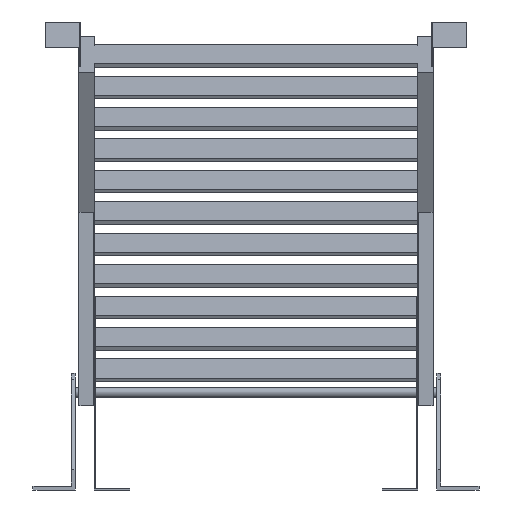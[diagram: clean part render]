
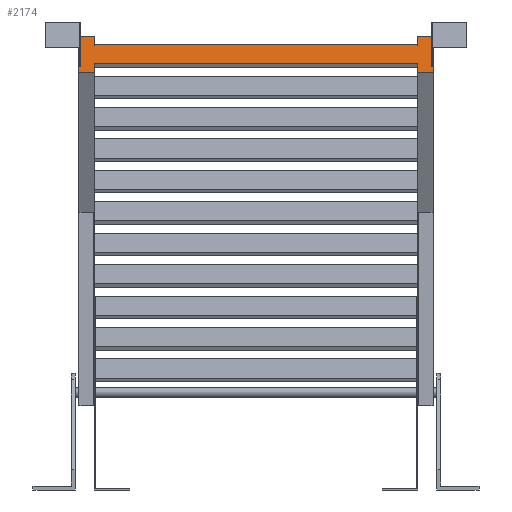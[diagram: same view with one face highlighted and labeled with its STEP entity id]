
A CAD part, front view. The second image highlights one B-rep face of the part: STEP entity #2174.
In plain terms, the highlighted planar face has unit normal (0, -0.985, 0.174).
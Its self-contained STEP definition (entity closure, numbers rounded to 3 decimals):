
#681=DIRECTION('',(1.,0.,0.));
#682=VECTOR('',#681,500.);
#683=CARTESIAN_POINT('',(-250.,-2660.988,659.349));
#684=LINE('',#683,#682);
#689=DIRECTION('',(0.,0.174,0.985));
#690=VECTOR('',#689,13.5);
#691=CARTESIAN_POINT('',(-250.,-2655.779,688.894));
#692=LINE('',#691,#690);
#693=DIRECTION('',(0.,-0.174,-0.985));
#694=VECTOR('',#693,13.5);
#695=CARTESIAN_POINT('',(250.,-2653.434,702.188));
#696=LINE('',#695,#694);
#697=DIRECTION('',(-1.,0.,0.));
#698=VECTOR('',#697,25.);
#699=CARTESIAN_POINT('',(275.,-2653.434,702.188));
#700=LINE('',#699,#698);
#701=DIRECTION('',(0.,0.174,0.985));
#702=VECTOR('',#701,57.);
#703=CARTESIAN_POINT('',(275.,-2663.332,646.054));
#704=LINE('',#703,#702);
#705=DIRECTION('',(1.,0.,0.));
#706=VECTOR('',#705,25.);
#707=CARTESIAN_POINT('',(250.,-2663.332,646.054));
#708=LINE('',#707,#706);
#709=DIRECTION('',(0.,-0.174,-0.985));
#710=VECTOR('',#709,13.5);
#711=CARTESIAN_POINT('',(250.,-2660.988,659.349));
#712=LINE('',#711,#710);
#713=DIRECTION('',(0.,0.174,0.985));
#714=VECTOR('',#713,13.5);
#715=CARTESIAN_POINT('',(-250.,-2663.332,646.054));
#716=LINE('',#715,#714);
#717=DIRECTION('',(1.,0.,0.));
#718=VECTOR('',#717,25.);
#719=CARTESIAN_POINT('',(-275.,-2663.332,646.054));
#720=LINE('',#719,#718);
#721=DIRECTION('',(0.,-0.174,-0.985));
#722=VECTOR('',#721,57.);
#723=CARTESIAN_POINT('',(-275.,-2653.434,702.188));
#724=LINE('',#723,#722);
#725=DIRECTION('',(-1.,0.,0.));
#726=VECTOR('',#725,25.);
#727=CARTESIAN_POINT('',(-250.,-2653.434,702.188));
#728=LINE('',#727,#726);
#729=DIRECTION('',(1.,0.,0.));
#730=VECTOR('',#729,2.);
#731=CARTESIAN_POINT('',(-273.,-2661.856,654.425));
#732=LINE('',#731,#730);
#733=DIRECTION('',(0.,0.174,0.985));
#734=VECTOR('',#733,40.);
#735=CARTESIAN_POINT('',(-271.,-2661.856,654.425));
#736=LINE('',#735,#734);
#737=DIRECTION('',(1.,0.,0.));
#738=VECTOR('',#737,2.);
#739=CARTESIAN_POINT('',(-273.,-2654.91,693.818));
#740=LINE('',#739,#738);
#741=DIRECTION('',(0.,0.174,0.985));
#742=VECTOR('',#741,40.);
#743=CARTESIAN_POINT('',(-273.,-2661.856,654.425));
#744=LINE('',#743,#742);
#745=DIRECTION('',(1.,0.,0.));
#746=VECTOR('',#745,2.);
#747=CARTESIAN_POINT('',(271.,-2661.856,654.425));
#748=LINE('',#747,#746);
#749=DIRECTION('',(0.,0.174,0.985));
#750=VECTOR('',#749,40.);
#751=CARTESIAN_POINT('',(273.,-2661.856,654.425));
#752=LINE('',#751,#750);
#753=DIRECTION('',(1.,0.,0.));
#754=VECTOR('',#753,2.);
#755=CARTESIAN_POINT('',(271.,-2654.91,693.818));
#756=LINE('',#755,#754);
#757=DIRECTION('',(0.,0.174,0.985));
#758=VECTOR('',#757,40.);
#759=CARTESIAN_POINT('',(271.,-2661.856,654.425));
#760=LINE('',#759,#758);
#765=DIRECTION('',(1.,0.,0.));
#766=VECTOR('',#765,500.);
#767=CARTESIAN_POINT('',(-250.,-2655.779,688.894));
#768=LINE('',#767,#766);
#993=CARTESIAN_POINT('',(-250.,-2653.434,702.188));
#994=CARTESIAN_POINT('',(-275.,-2653.434,702.188));
#995=VERTEX_POINT('',#993);
#996=VERTEX_POINT('',#994);
#997=CARTESIAN_POINT('',(-275.,-2663.332,646.054));
#998=CARTESIAN_POINT('',(-250.,-2663.332,646.054));
#999=VERTEX_POINT('',#997);
#1000=VERTEX_POINT('',#998);
#1001=CARTESIAN_POINT('',(275.,-2663.332,646.054));
#1002=CARTESIAN_POINT('',(275.,-2653.434,702.188));
#1003=VERTEX_POINT('',#1001);
#1004=VERTEX_POINT('',#1002);
#1005=CARTESIAN_POINT('',(250.,-2663.332,646.054));
#1006=VERTEX_POINT('',#1005);
#1007=CARTESIAN_POINT('',(250.,-2653.434,702.188));
#1008=VERTEX_POINT('',#1007);
#1169=CARTESIAN_POINT('',(-250.,-2660.988,659.349));
#1171=VERTEX_POINT('',#1169);
#1173=CARTESIAN_POINT('',(-250.,-2655.779,688.894));
#1175=VERTEX_POINT('',#1173);
#1177=CARTESIAN_POINT('',(250.,-2660.988,659.349));
#1179=VERTEX_POINT('',#1177);
#1181=CARTESIAN_POINT('',(250.,-2655.779,688.894));
#1183=VERTEX_POINT('',#1181);
#1233=CARTESIAN_POINT('',(-273.,-2661.856,654.425));
#1234=CARTESIAN_POINT('',(-271.,-2661.856,654.425));
#1235=VERTEX_POINT('',#1233);
#1236=VERTEX_POINT('',#1234);
#1237=CARTESIAN_POINT('',(-273.,-2654.91,693.818));
#1238=CARTESIAN_POINT('',(-271.,-2654.91,693.818));
#1239=VERTEX_POINT('',#1237);
#1240=VERTEX_POINT('',#1238);
#1257=CARTESIAN_POINT('',(271.,-2661.856,654.425));
#1258=CARTESIAN_POINT('',(273.,-2661.856,654.425));
#1259=VERTEX_POINT('',#1257);
#1260=VERTEX_POINT('',#1258);
#1261=CARTESIAN_POINT('',(271.,-2654.91,693.818));
#1262=CARTESIAN_POINT('',(273.,-2654.91,693.818));
#1263=VERTEX_POINT('',#1261);
#1264=VERTEX_POINT('',#1262);
#2130=CARTESIAN_POINT('',(0.,-2693.505,474.938));
#2131=DIRECTION('',(0.,0.985,-0.174));
#2132=DIRECTION('',(1.,0.,0.));
#2133=AXIS2_PLACEMENT_3D('',#2130,#2131,#2132);
#2134=PLANE('',#2133);
#2135=ORIENTED_EDGE('',*,*,#1363,.F.);
#2137=ORIENTED_EDGE('',*,*,#2136,.T.);
#2138=ORIENTED_EDGE('',*,*,#1543,.F.);
#2140=ORIENTED_EDGE('',*,*,#2139,.F.);
#2142=ORIENTED_EDGE('',*,*,#2141,.F.);
#2143=ORIENTED_EDGE('',*,*,#1290,.F.);
#2144=ORIENTED_EDGE('',*,*,#1537,.F.);
#2145=ORIENTED_EDGE('',*,*,#2122,.F.);
#2146=ORIENTED_EDGE('',*,*,#1369,.F.);
#2148=ORIENTED_EDGE('',*,*,#2147,.F.);
#2150=ORIENTED_EDGE('',*,*,#2149,.F.);
#2151=ORIENTED_EDGE('',*,*,#1345,.F.);
#2152=EDGE_LOOP('',(#2135,#2137,#2138,#2140,#2142,#2143,#2144,#2145,#2146,#2148,
#2150,#2151));
#2153=FACE_OUTER_BOUND('',#2152,.F.);
#2155=ORIENTED_EDGE('',*,*,#2154,.T.);
#2157=ORIENTED_EDGE('',*,*,#2156,.T.);
#2159=ORIENTED_EDGE('',*,*,#2158,.F.);
#2161=ORIENTED_EDGE('',*,*,#2160,.F.);
#2162=EDGE_LOOP('',(#2155,#2157,#2159,#2161));
#2163=FACE_BOUND('',#2162,.F.);
#2165=ORIENTED_EDGE('',*,*,#2164,.T.);
#2167=ORIENTED_EDGE('',*,*,#2166,.T.);
#2169=ORIENTED_EDGE('',*,*,#2168,.F.);
#2171=ORIENTED_EDGE('',*,*,#2170,.F.);
#2172=EDGE_LOOP('',(#2165,#2167,#2169,#2171));
#2173=FACE_BOUND('',#2172,.F.);
#1290=EDGE_CURVE('',#1006,#1003,#708,.T.);
#1345=EDGE_CURVE('',#995,#996,#728,.T.);
#1363=EDGE_CURVE('',#1175,#995,#692,.T.);
#1369=EDGE_CURVE('',#1000,#1171,#716,.T.);
#1537=EDGE_CURVE('',#1179,#1006,#712,.T.);
#1543=EDGE_CURVE('',#1008,#1183,#696,.T.);
#2122=EDGE_CURVE('',#1171,#1179,#684,.T.);
#2136=EDGE_CURVE('',#1175,#1183,#768,.T.);
#2139=EDGE_CURVE('',#1004,#1008,#700,.T.);
#2141=EDGE_CURVE('',#1003,#1004,#704,.T.);
#2147=EDGE_CURVE('',#999,#1000,#720,.T.);
#2149=EDGE_CURVE('',#996,#999,#724,.T.);
#2154=EDGE_CURVE('',#1235,#1236,#732,.T.);
#2156=EDGE_CURVE('',#1236,#1240,#736,.T.);
#2158=EDGE_CURVE('',#1239,#1240,#740,.T.);
#2160=EDGE_CURVE('',#1235,#1239,#744,.T.);
#2164=EDGE_CURVE('',#1259,#1260,#748,.T.);
#2166=EDGE_CURVE('',#1260,#1264,#752,.T.);
#2168=EDGE_CURVE('',#1263,#1264,#756,.T.);
#2170=EDGE_CURVE('',#1259,#1263,#760,.T.);
#2174=ADVANCED_FACE('',(#2153,#2163,#2173),#2134,.F.);
